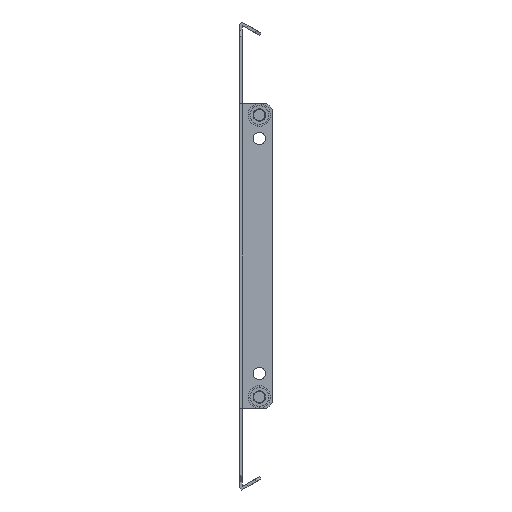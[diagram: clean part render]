
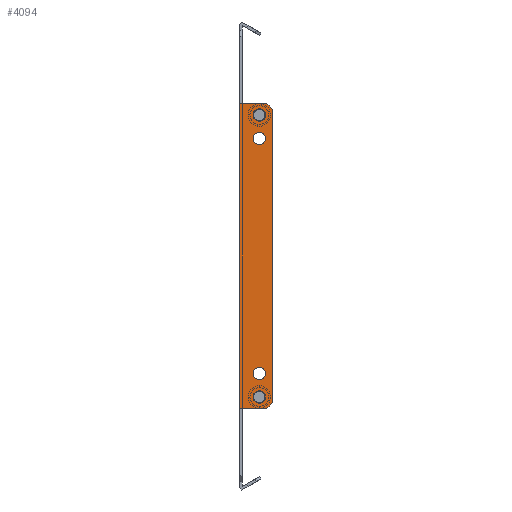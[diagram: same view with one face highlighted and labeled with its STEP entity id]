
A CAD part, front view. The second image highlights one B-rep face of the part: STEP entity #4094.
In plain terms, the highlighted planar face has unit normal (0, -1, 0).
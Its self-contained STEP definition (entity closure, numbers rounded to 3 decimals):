
#239 = VERTEX_POINT ( 'NONE', #16278 ) ;
#294 = AXIS2_PLACEMENT_3D ( 'NONE', #5900, #935, #16000 ) ;
#591 = AXIS2_PLACEMENT_3D ( 'NONE', #6186, #13820, #14056 ) ;
#628 = ORIENTED_EDGE ( 'NONE', *, *, #5286, .T. ) ;
#764 = DIRECTION ( 'NONE',  ( -1., 0., 0. ) ) ;
#776 = ORIENTED_EDGE ( 'NONE', *, *, #1166, .F. ) ;
#847 = CARTESIAN_POINT ( 'NONE',  ( 17.5, -352.75, -78. ) ) ;
#935 = DIRECTION ( 'NONE',  ( 0., 1., 0. ) ) ;
#1079 = VERTEX_POINT ( 'NONE', #9785 ) ;
#1096 = FACE_BOUND ( 'NONE', #2485, .T. ) ;
#1146 = CIRCLE ( 'NONE', #16221, 3.25 ) ;
#1166 = EDGE_CURVE ( 'NONE', #12649, #1079, #8196, .T. ) ;
#1250 = CARTESIAN_POINT ( 'NONE',  ( 2.5, -352.75, 81. ) ) ;
#1366 = CARTESIAN_POINT ( 'NONE',  ( 2.5, -352.75, -81. ) ) ;
#1399 = DIRECTION ( 'NONE',  ( -1., 0., 0. ) ) ;
#1486 = AXIS2_PLACEMENT_3D ( 'NONE', #2630, #6383, #1399 ) ;
#1670 = EDGE_LOOP ( 'NONE', ( #11691, #15901 ) ) ;
#1967 = DIRECTION ( 'NONE',  ( -0.707, 0., 0.707 ) ) ;
#2120 = AXIS2_PLACEMENT_3D ( 'NONE', #11249, #16159, #6212 ) ;
#2209 = EDGE_CURVE ( 'NONE', #4131, #6608, #9948, .T. ) ;
#2485 = EDGE_LOOP ( 'NONE', ( #5794, #776 ) ) ;
#2630 = CARTESIAN_POINT ( 'NONE',  ( 10.5, -352.75, 75. ) ) ;
#3055 = CARTESIAN_POINT ( 'NONE',  ( 0., -352.75, 81. ) ) ;
#3094 = CARTESIAN_POINT ( 'NONE',  ( 13.75, -352.75, -62.5 ) ) ;
#3146 = CARTESIAN_POINT ( 'NONE',  ( 0., -352.75, 0. ) ) ;
#3220 = LINE ( 'NONE', #3055, #10613 ) ;
#3390 = DIRECTION ( 'NONE',  ( -1., 0., 0. ) ) ;
#3483 = VERTEX_POINT ( 'NONE', #8737 ) ;
#3492 = DIRECTION ( 'NONE',  ( 0., -1., 0. ) ) ;
#3496 = CARTESIAN_POINT ( 'NONE',  ( 2.5, -352.75, 81. ) ) ;
#3705 = VECTOR ( 'NONE', #4830, 1000. ) ;
#3885 = CIRCLE ( 'NONE', #6017, 3.25 ) ;
#4094 = ADVANCED_FACE ( 'NONE', ( #7466, #16172, #1096, #12265, #7144 ), #12515, .F. ) ;
#4131 = VERTEX_POINT ( 'NONE', #1250 ) ;
#4226 = DIRECTION ( 'NONE',  ( -1., 0., 0. ) ) ;
#4306 = EDGE_CURVE ( 'NONE', #239, #4131, #3220, .T. ) ;
#4392 = AXIS2_PLACEMENT_3D ( 'NONE', #6973, #7051, #764 ) ;
#4407 = CARTESIAN_POINT ( 'NONE',  ( 0., -352.75, -81. ) ) ;
#4600 = DIRECTION ( 'NONE',  ( -1., 0., 0. ) ) ;
#4631 = DIRECTION ( 'NONE',  ( 0., 0., -1. ) ) ;
#4658 = CARTESIAN_POINT ( 'NONE',  ( 13.75, -352.75, 75. ) ) ;
#4676 = ORIENTED_EDGE ( 'NONE', *, *, #9988, .F. ) ;
#4830 = DIRECTION ( 'NONE',  ( 0., 0., 1. ) ) ;
#5245 = VERTEX_POINT ( 'NONE', #4658 ) ;
#5266 = VERTEX_POINT ( 'NONE', #11122 ) ;
#5286 = EDGE_CURVE ( 'NONE', #7785, #5266, #16178, .T. ) ;
#5374 = CARTESIAN_POINT ( 'NONE',  ( 7.25, -352.75, 62.5 ) ) ;
#5565 = ORIENTED_EDGE ( 'NONE', *, *, #7700, .F. ) ;
#5669 = CIRCLE ( 'NONE', #6718, 3.25 ) ;
#5746 = CARTESIAN_POINT ( 'NONE',  ( 0., -352.75, -81. ) ) ;
#5794 = ORIENTED_EDGE ( 'NONE', *, *, #13701, .F. ) ;
#5900 = CARTESIAN_POINT ( 'NONE',  ( 0., -352.75, 0. ) ) ;
#5917 = ORIENTED_EDGE ( 'NONE', *, *, #16057, .T. ) ;
#5981 = LINE ( 'NONE', #4407, #9601 ) ;
#6017 = AXIS2_PLACEMENT_3D ( 'NONE', #13493, #8666, #4600 ) ;
#6093 = EDGE_CURVE ( 'NONE', #12202, #3483, #14975, .T. ) ;
#6186 = CARTESIAN_POINT ( 'NONE',  ( 10.5, -352.75, -75. ) ) ;
#6212 = DIRECTION ( 'NONE',  ( -1., 0., 0. ) ) ;
#6383 = DIRECTION ( 'NONE',  ( 0., -1., 0. ) ) ;
#6608 = VERTEX_POINT ( 'NONE', #12987 ) ;
#6718 = AXIS2_PLACEMENT_3D ( 'NONE', #16075, #9852, #3390 ) ;
#6973 = CARTESIAN_POINT ( 'NONE',  ( 10.5, -352.75, -62.5 ) ) ;
#7051 = DIRECTION ( 'NONE',  ( 0., -1., 0. ) ) ;
#7060 = LINE ( 'NONE', #847, #15154 ) ;
#7113 = LINE ( 'NONE', #15970, #14407 ) ;
#7144 = FACE_OUTER_BOUND ( 'NONE', #13029, .T. ) ;
#7161 = EDGE_CURVE ( 'NONE', #5266, #239, #7113, .T. ) ;
#7204 = CIRCLE ( 'NONE', #591, 3.25 ) ;
#7437 = EDGE_LOOP ( 'NONE', ( #4676, #11855 ) ) ;
#7466 = FACE_BOUND ( 'NONE', #1670, .T. ) ;
#7700 = EDGE_CURVE ( 'NONE', #3483, #12202, #5669, .T. ) ;
#7785 = VERTEX_POINT ( 'NONE', #14535 ) ;
#7791 = EDGE_LOOP ( 'NONE', ( #5565, #13340 ) ) ;
#8001 = VERTEX_POINT ( 'NONE', #8252 ) ;
#8196 = CIRCLE ( 'NONE', #2120, 3.25 ) ;
#8231 = DIRECTION ( 'NONE',  ( 0.707, 0., 0.707 ) ) ;
#8252 = CARTESIAN_POINT ( 'NONE',  ( 14.5, -352.75, -81. ) ) ;
#8556 = DIRECTION ( 'NONE',  ( -1., 0., 0. ) ) ;
#8666 = DIRECTION ( 'NONE',  ( 0., -1., 0. ) ) ;
#8737 = CARTESIAN_POINT ( 'NONE',  ( 7.25, -352.75, -62.5 ) ) ;
#8873 = ORIENTED_EDGE ( 'NONE', *, *, #14356, .T. ) ;
#9102 = ORIENTED_EDGE ( 'NONE', *, *, #4306, .T. ) ;
#9175 = AXIS2_PLACEMENT_3D ( 'NONE', #12588, #16317, #11252 ) ;
#9601 = VECTOR ( 'NONE', #16095, 1000. ) ;
#9785 = CARTESIAN_POINT ( 'NONE',  ( 7.25, -352.75, -75. ) ) ;
#9852 = DIRECTION ( 'NONE',  ( 0., -1., 0. ) ) ;
#9944 = EDGE_CURVE ( 'NONE', #5245, #10530, #15790, .T. ) ;
#9948 = LINE ( 'NONE', #3496, #16038 ) ;
#9988 = EDGE_CURVE ( 'NONE', #11184, #14135, #10503, .T. ) ;
#10107 = DIRECTION ( 'NONE',  ( 1., 0., 0. ) ) ;
#10503 = CIRCLE ( 'NONE', #9175, 3.25 ) ;
#10530 = VERTEX_POINT ( 'NONE', #10877 ) ;
#10613 = VECTOR ( 'NONE', #4226, 1000. ) ;
#10877 = CARTESIAN_POINT ( 'NONE',  ( 7.25, -352.75, 75. ) ) ;
#11122 = CARTESIAN_POINT ( 'NONE',  ( 17.5, -352.75, 78. ) ) ;
#11184 = VERTEX_POINT ( 'NONE', #5374 ) ;
#11249 = CARTESIAN_POINT ( 'NONE',  ( 10.5, -352.75, -75. ) ) ;
#11252 = DIRECTION ( 'NONE',  ( -1., 0., 0. ) ) ;
#11291 = CARTESIAN_POINT ( 'NONE',  ( 13.75, -352.75, 62.5 ) ) ;
#11691 = ORIENTED_EDGE ( 'NONE', *, *, #11919, .F. ) ;
#11855 = ORIENTED_EDGE ( 'NONE', *, *, #14400, .F. ) ;
#11919 = EDGE_CURVE ( 'NONE', #10530, #5245, #3885, .T. ) ;
#12129 = VERTEX_POINT ( 'NONE', #1366 ) ;
#12202 = VERTEX_POINT ( 'NONE', #3094 ) ;
#12265 = FACE_BOUND ( 'NONE', #7791, .T. ) ;
#12278 = ORIENTED_EDGE ( 'NONE', *, *, #14403, .F. ) ;
#12515 = PLANE ( 'NONE',  #294 ) ;
#12588 = CARTESIAN_POINT ( 'NONE',  ( 10.5, -352.75, 62.5 ) ) ;
#12649 = VERTEX_POINT ( 'NONE', #16068 ) ;
#12987 = CARTESIAN_POINT ( 'NONE',  ( 0., -352.75, 81. ) ) ;
#13029 = EDGE_LOOP ( 'NONE', ( #628, #15112, #9102, #14053, #5917, #12278, #13371, #8873 ) ) ;
#13340 = ORIENTED_EDGE ( 'NONE', *, *, #6093, .F. ) ;
#13346 = CARTESIAN_POINT ( 'NONE',  ( 0., -352.75, -81. ) ) ;
#13371 = ORIENTED_EDGE ( 'NONE', *, *, #15727, .T. ) ;
#13493 = CARTESIAN_POINT ( 'NONE',  ( 10.5, -352.75, 75. ) ) ;
#13536 = CARTESIAN_POINT ( 'NONE',  ( 10.5, -352.75, 62.5 ) ) ;
#13623 = CARTESIAN_POINT ( 'NONE',  ( 17.5, -352.75, 0. ) ) ;
#13701 = EDGE_CURVE ( 'NONE', #1079, #12649, #7204, .T. ) ;
#13820 = DIRECTION ( 'NONE',  ( 0., -1., 0. ) ) ;
#14053 = ORIENTED_EDGE ( 'NONE', *, *, #2209, .T. ) ;
#14056 = DIRECTION ( 'NONE',  ( -1., 0., 0. ) ) ;
#14135 = VERTEX_POINT ( 'NONE', #11291 ) ;
#14356 = EDGE_CURVE ( 'NONE', #8001, #7785, #7060, .T. ) ;
#14400 = EDGE_CURVE ( 'NONE', #14135, #11184, #1146, .T. ) ;
#14403 = EDGE_CURVE ( 'NONE', #12129, #14874, #5981, .T. ) ;
#14407 = VECTOR ( 'NONE', #1967, 1000. ) ;
#14535 = CARTESIAN_POINT ( 'NONE',  ( 17.5, -352.75, -78. ) ) ;
#14682 = DIRECTION ( 'NONE',  ( -1., 0., 0. ) ) ;
#14856 = LINE ( 'NONE', #5746, #15732 ) ;
#14874 = VERTEX_POINT ( 'NONE', #13346 ) ;
#14975 = CIRCLE ( 'NONE', #4392, 3.25 ) ;
#15112 = ORIENTED_EDGE ( 'NONE', *, *, #7161, .T. ) ;
#15154 = VECTOR ( 'NONE', #8231, 1000. ) ;
#15727 = EDGE_CURVE ( 'NONE', #12129, #8001, #14856, .T. ) ;
#15732 = VECTOR ( 'NONE', #10107, 1000. ) ;
#15790 = CIRCLE ( 'NONE', #1486, 3.25 ) ;
#15901 = ORIENTED_EDGE ( 'NONE', *, *, #9944, .F. ) ;
#15912 = LINE ( 'NONE', #3146, #16004 ) ;
#15970 = CARTESIAN_POINT ( 'NONE',  ( 14.5, -352.75, 81. ) ) ;
#16000 = DIRECTION ( 'NONE',  ( 1., 0., 0. ) ) ;
#16004 = VECTOR ( 'NONE', #4631, 1000. ) ;
#16038 = VECTOR ( 'NONE', #8556, 1000. ) ;
#16057 = EDGE_CURVE ( 'NONE', #6608, #14874, #15912, .T. ) ;
#16068 = CARTESIAN_POINT ( 'NONE',  ( 13.75, -352.75, -75. ) ) ;
#16075 = CARTESIAN_POINT ( 'NONE',  ( 10.5, -352.75, -62.5 ) ) ;
#16095 = DIRECTION ( 'NONE',  ( -1., 0., 0. ) ) ;
#16159 = DIRECTION ( 'NONE',  ( 0., -1., 0. ) ) ;
#16172 = FACE_BOUND ( 'NONE', #7437, .T. ) ;
#16178 = LINE ( 'NONE', #13623, #3705 ) ;
#16221 = AXIS2_PLACEMENT_3D ( 'NONE', #13536, #3492, #14682 ) ;
#16278 = CARTESIAN_POINT ( 'NONE',  ( 14.5, -352.75, 81. ) ) ;
#16317 = DIRECTION ( 'NONE',  ( 0., -1., 0. ) ) ;
